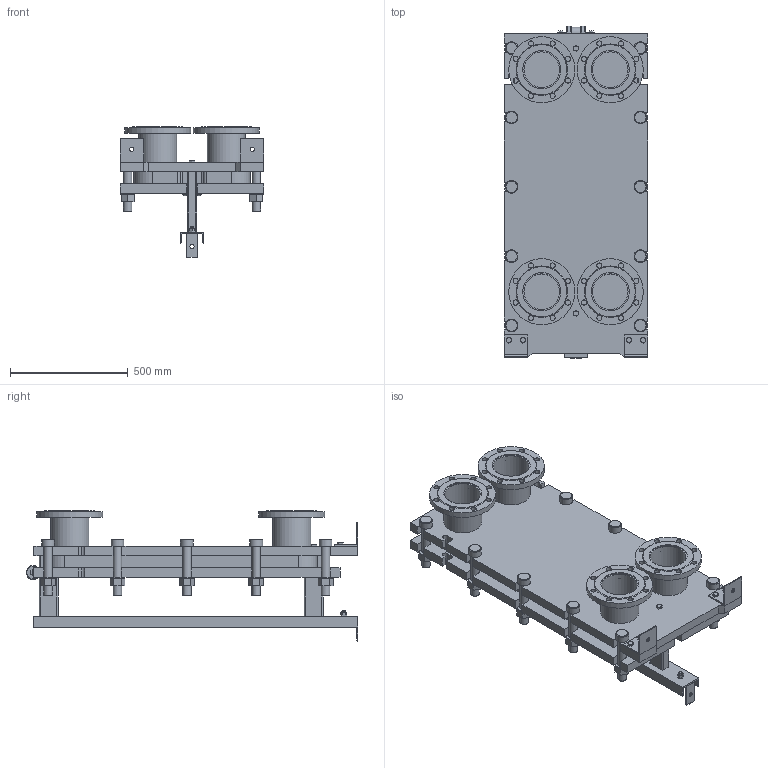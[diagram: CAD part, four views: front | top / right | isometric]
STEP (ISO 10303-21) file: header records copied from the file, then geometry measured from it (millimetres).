
FILE_DESCRIPTION(/* description */ (''),/* implementation_level */ '2;1');
FILE_NAME(/* name */ 'C:\Users\zhuro\Desktop\ENCO\TO\ЭН-041\ЭН-0,5-041-15-1.stp',/* time_stamp */ '2022-06-06T10:49:11+03:00',/* author */ ('zhuro'),/* organization */ (''),/* preprocessor_version */ 'ST-DEVELOPER v18.1',/* originating_system */ 'Autodesk Inventor 2022',/* authorisation */ '');
FILE_SCHEMA (('AUTOMOTIVE_DESIGN { 1 0 10303 214 3 1 1 }'));
Length unit declared in the file: millimetre
Products named in the file (1): ЭН-0,5-041-15-1
Bounding box: 610 x 1406.5 x 552.5 mm (x, y, z)
Volume: 103606113.6 mm3; surface area: 7150330.8 mm2
Topology: 52 solids, 52 shells, 711 faces, 1696 edges, 1094 vertices
Faces by surface type: plane 487, cylinder 177, cone 41, torus 6
Full cylindrical faces by diameter (mm): 8 x4, 10 x2, 16 x8, 18 x3, 22 x32, 36 x24, 50 x1, 54 x10, 60 x12, 151 x4, 161 x8, 280 x4
Entity records: 22667 total; most frequent: CARTESIAN_POINT 5230, DIRECTION 3644, ORIENTED_EDGE 3392, EDGE_CURVE 1696, AXIS2_PLACEMENT_3D 1272, LINE 1100, VECTOR 1100, VERTEX_POINT 1094
